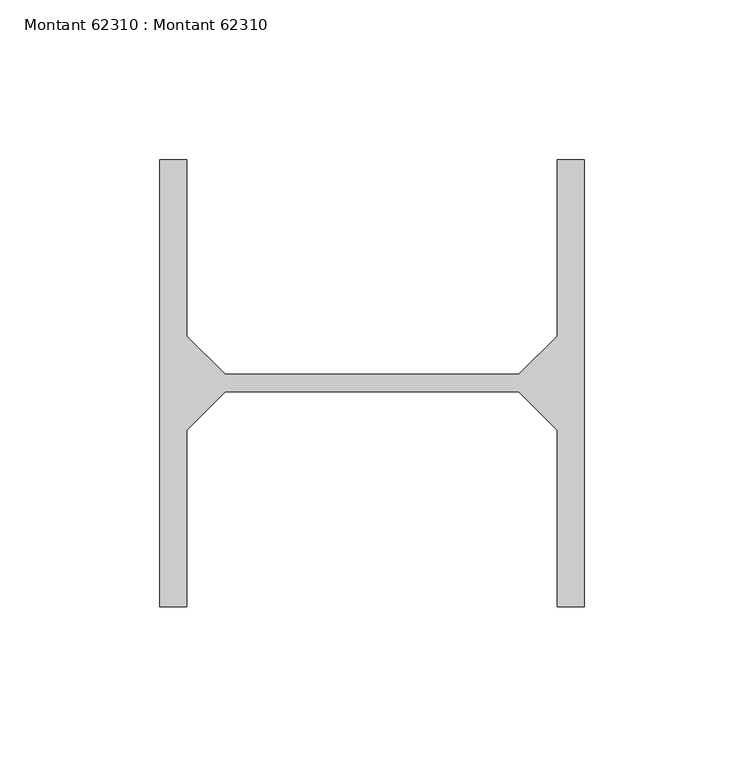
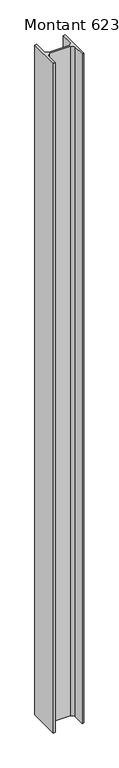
"""IFC4 building model written with IfcOpenShell, lengths in millimetres: beam geometry, Montant 62310 : Montant 62310."""

from ifc_helpers import new_model, si_unit, frame, origin, place, context, project, spatial, polyline, outline, extrude, source, transform, mapped, element, save


def montant_62310_montant_62310_f073a8db(model_context):
    return source(origin(), model_context, "Body", "SweptSolid", [
        extrude(outline(polyline([(-168.0000001, -26307.75), (-168.0000001, -26363.0), (-176.5000001, -26363.0), (-176.5000001, -26223.0), (-168.0000001, -26223.0), (-168.0000001, -26278.25), (-156.0000001, -26290.25), (-64.0000001, -26290.25), (-52.0000001, -26278.25), (-52.0000001, -26223.0), (-43.5000001, -26223.0), (-43.5000001, -26363.0), (-52.0000001, -26363.0), (-52.0000001, -26307.75), (-64.0000001, -26295.75), (-156.0000001, -26295.75), (-168.0000001, -26307.75)])), frame((0.0, 0.0, 5333.0), z_axis=(0.0, 0.0, 1.0), x_axis=(1.0, 0.0, 0.0)), (0.0, 0.0, 1.0), 3084.0),
    ])


if __name__ == "__main__":
    model = new_model("IFC4")
    model_context = context("Model", 3, world=origin())
    ifc_project = project(units=[si_unit("LENGTHUNIT", "METRE", prefix="MILLI")], contexts=[model_context])
    site = spatial("IfcSite", under=ifc_project)
    building = spatial("IfcBuilding", under=site)
    placement = place(None, origin())
    montant_62310_montant_62310_shape = montant_62310_montant_62310_f073a8db(model_context)
    element("IfcBeam", 1, ObjectType="Montant 62310 : Montant 62310", at=placement, inside=building, context=model_context, shape_type="MappedRepresentation", body=[
        mapped(montant_62310_montant_62310_shape, transform((0.0, 0.0, 0.0), x_axis=(1.0, 0.0, 0.0), y_axis=(0.0, 1.0, 0.0), z_axis=(0.0, 0.0, 1.0))),
    ])
    save(model, "model.ifc")
